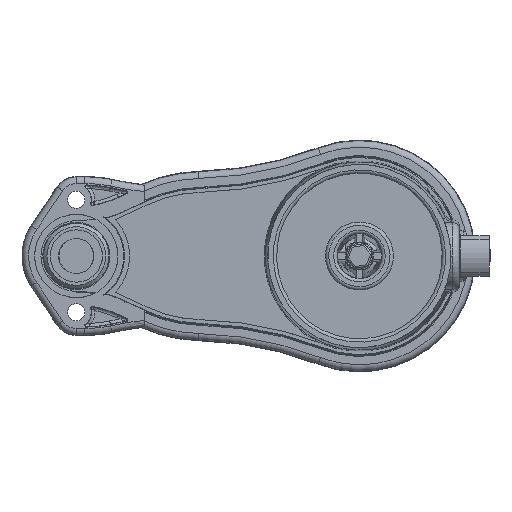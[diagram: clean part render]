
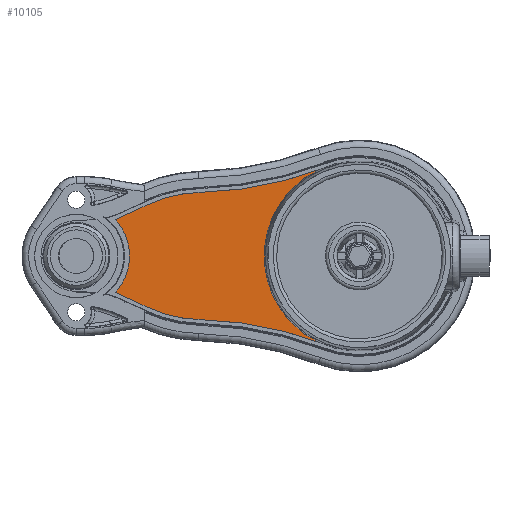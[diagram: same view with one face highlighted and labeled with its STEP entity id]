
A CAD part, front view. The second image highlights one B-rep face of the part: STEP entity #10105.
In plain terms, the highlighted planar face has unit normal (0, -1, 0).
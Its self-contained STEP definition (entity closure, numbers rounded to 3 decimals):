
#559=B_SPLINE_CURVE_WITH_KNOTS('',3,(#22620,#22621,#22622,#22623),
 .UNSPECIFIED.,.F.,.F.,(4,4),(0.,1.),.UNSPECIFIED.);
#562=B_SPLINE_CURVE_WITH_KNOTS('',3,(#22785,#22786,#22787,#22788,#22789,
#22790,#22791,#22792,#22793,#22794,#22795,#22796,#22797,#22798),
 .UNSPECIFIED.,.F.,.F.,(4,2,2,2,2,2,4),(0.,0.25,0.375,0.5,0.625,0.75,1.),
 .UNSPECIFIED.);
#1206=LINE('',#22601,#1736);
#1213=LINE('',#22655,#1743);
#1217=LINE('',#22663,#1747);
#1736=VECTOR('',#13829,1000.);
#1743=VECTOR('',#13860,1000.);
#1747=VECTOR('',#13866,1000.);
#4066=ORIENTED_EDGE('',*,*,#5757,.T.);
#4067=ORIENTED_EDGE('',*,*,#5807,.T.);
#4068=ORIENTED_EDGE('',*,*,#5760,.T.);
#4069=ORIENTED_EDGE('',*,*,#5762,.T.);
#4070=ORIENTED_EDGE('',*,*,#5747,.T.);
#4071=ORIENTED_EDGE('',*,*,#5742,.F.);
#4072=ORIENTED_EDGE('',*,*,#5751,.T.);
#4073=ORIENTED_EDGE('',*,*,#5752,.T.);
#4074=ORIENTED_EDGE('',*,*,#5737,.F.);
#4075=ORIENTED_EDGE('',*,*,#5808,.F.);
#4076=ORIENTED_EDGE('',*,*,#5741,.F.);
#4077=ORIENTED_EDGE('',*,*,#5732,.F.);
#4078=ORIENTED_EDGE('',*,*,#5729,.F.);
#4079=ORIENTED_EDGE('',*,*,#5809,.F.);
#5729=EDGE_CURVE('',#6868,#6866,#1206,.T.);
#5732=EDGE_CURVE('',#6866,#6870,#559,.F.);
#5737=EDGE_CURVE('',#6875,#6872,#7591,.T.);
#5741=EDGE_CURVE('',#6870,#6876,#7594,.T.);
#5742=EDGE_CURVE('',#6879,#6880,#7595,.T.);
#5747=EDGE_CURVE('',#6884,#6880,#1213,.T.);
#5751=EDGE_CURVE('',#6879,#6886,#1217,.T.);
#5752=EDGE_CURVE('',#6886,#6887,#7597,.T.);
#5757=EDGE_CURVE('',#6887,#6890,#7600,.T.);
#5760=EDGE_CURVE('',#6894,#6893,#7602,.T.);
#5762=EDGE_CURVE('',#6893,#6884,#7603,.T.);
#5807=EDGE_CURVE('',#6890,#6894,#7638,.T.);
#5808=EDGE_CURVE('',#6876,#6875,#7639,.T.);
#5809=EDGE_CURVE('',#6872,#6868,#562,.T.);
#6866=VERTEX_POINT('',#22596);
#6868=VERTEX_POINT('',#22600);
#6870=VERTEX_POINT('',#22615);
#6872=VERTEX_POINT('',#22627);
#6875=VERTEX_POINT('',#22633);
#6876=VERTEX_POINT('',#22637);
#6879=VERTEX_POINT('',#22645);
#6880=VERTEX_POINT('',#22646);
#6884=VERTEX_POINT('',#22656);
#6886=VERTEX_POINT('',#22662);
#6887=VERTEX_POINT('',#22666);
#6890=VERTEX_POINT('',#22674);
#6893=VERTEX_POINT('',#22681);
#6894=VERTEX_POINT('',#22683);
#7591=CIRCLE('',#11357,3.199);
#7594=CIRCLE('',#11361,3.199);
#7595=CIRCLE('',#11363,16.022);
#7597=CIRCLE('',#11368,38.452);
#7600=CIRCLE('',#11372,114.548);
#7602=CIRCLE('',#11375,114.548);
#7603=CIRCLE('',#11377,38.452);
#7638=CIRCLE('',#11427,28.452);
#7639=CIRCLE('',#11428,27.1);
#8391=EDGE_LOOP('',(#4066,#4067,#4068,#4069,#4070,#4071,#4072,#4073));
#8392=EDGE_LOOP('',(#4074,#4075,#4076,#4077,#4078,#4079));
#9200=FACE_BOUND('',#8391,.T.);
#9201=FACE_BOUND('',#8392,.T.);
#9566=PLANE('',#11426);
#10105=ADVANCED_FACE('',(#9200,#9201),#9566,.F.);
#11357=AXIS2_PLACEMENT_3D('',#22634,#13838,#13839);
#11361=AXIS2_PLACEMENT_3D('',#22642,#13847,#13848);
#11363=AXIS2_PLACEMENT_3D('',#22644,#13851,#13852);
#11368=AXIS2_PLACEMENT_3D('',#22665,#13869,#13870);
#11372=AXIS2_PLACEMENT_3D('',#22675,#13879,#13880);
#11375=AXIS2_PLACEMENT_3D('',#22682,#13886,#13887);
#11377=AXIS2_PLACEMENT_3D('',#22686,#13891,#13892);
#11426=AXIS2_PLACEMENT_3D('',#22782,#13997,#13998);
#11427=AXIS2_PLACEMENT_3D('',#22783,#13999,#14000);
#11428=AXIS2_PLACEMENT_3D('',#22784,#14001,#14002);
#13829=DIRECTION('',(0.,0.,1.));
#13838=DIRECTION('',(0.,1.,0.));
#13839=DIRECTION('',(0.,0.,-1.));
#13847=DIRECTION('',(0.,1.,0.));
#13848=DIRECTION('',(0.,0.,-1.));
#13851=DIRECTION('',(0.,-1.,0.));
#13852=DIRECTION('',(0.,0.,1.));
#13860=DIRECTION('',(-0.906,0.,-0.423));
#13866=DIRECTION('',(0.906,0.,-0.423));
#13869=DIRECTION('',(0.,-1.,0.));
#13870=DIRECTION('',(0.,0.,1.));
#13879=DIRECTION('',(0.,1.,0.));
#13880=DIRECTION('',(0.,0.,1.));
#13886=DIRECTION('',(0.,1.,0.));
#13887=DIRECTION('',(0.,0.,1.));
#13891=DIRECTION('',(0.,-1.,0.));
#13892=DIRECTION('',(0.,0.,1.));
#13997=DIRECTION('',(0.,1.,0.));
#13998=DIRECTION('',(0.,0.,1.));
#13999=DIRECTION('',(0.,-1.,0.));
#14000=DIRECTION('',(0.,0.,1.));
#14001=DIRECTION('',(0.,-1.,0.));
#14002=DIRECTION('',(0.,0.,1.));
#22596=CARTESIAN_POINT('',(112.3,0.,7.301));
#22600=CARTESIAN_POINT('',(112.3,0.,-7.301));
#22601=CARTESIAN_POINT('',(112.3,0.,7.301));
#22615=CARTESIAN_POINT('',(111.564,0.,8.098));
#22620=CARTESIAN_POINT('',(111.564,0.,8.098));
#22621=CARTESIAN_POINT('',(111.96,0.,8.067));
#22622=CARTESIAN_POINT('',(112.3,0.,7.704));
#22623=CARTESIAN_POINT('',(112.3,0.,7.301));
#22627=CARTESIAN_POINT('',(111.564,0.,-8.098));
#22633=CARTESIAN_POINT('',(110.813,0.,-8.251));
#22634=CARTESIAN_POINT('',(111.82,0.,-11.287));
#22637=CARTESIAN_POINT('',(110.813,0.,8.251));
#22642=CARTESIAN_POINT('',(111.82,0.,11.287));
#22644=CARTESIAN_POINT('',(0.,0.,0.));
#22645=CARTESIAN_POINT('',(11.741,0.,-10.902));
#22646=CARTESIAN_POINT('',(11.741,0.,10.902));
#22655=CARTESIAN_POINT('',(21.563,0.,15.482));
#22656=CARTESIAN_POINT('',(21.563,0.,15.482));
#22662=CARTESIAN_POINT('',(21.563,0.,-15.482));
#22663=CARTESIAN_POINT('',(15.023,0.,-12.433));
#22665=CARTESIAN_POINT('',(37.814,0.,19.367));
#22666=CARTESIAN_POINT('',(36.847,0.,-19.073));
#22674=CARTESIAN_POINT('',(74.847,0.,-26.579));
#22675=CARTESIAN_POINT('',(33.969,0.,-133.585));
#22681=CARTESIAN_POINT('',(36.847,0.,19.073));
#22682=CARTESIAN_POINT('',(33.969,0.,133.585));
#22683=CARTESIAN_POINT('',(74.847,0.,26.579));
#22686=CARTESIAN_POINT('',(37.814,0.,-19.367));
#22782=CARTESIAN_POINT('',(0.,0.,-16.9));
#22783=CARTESIAN_POINT('',(85.,0.,0.));
#22784=CARTESIAN_POINT('',(85.,0.,0.));
#22785=CARTESIAN_POINT('',(111.564,0.,-8.098));
#22786=CARTESIAN_POINT('',(111.664,0.,-8.09));
#22787=CARTESIAN_POINT('',(111.761,0.,-8.064));
#22788=CARTESIAN_POINT('',(111.895,0.,-7.999));
#22789=CARTESIAN_POINT('',(111.938,0.,-7.973));
#22790=CARTESIAN_POINT('',(112.017,0.,-7.913));
#22791=CARTESIAN_POINT('',(112.054,0.,-7.88));
#22792=CARTESIAN_POINT('',(112.121,0.,-7.807));
#22793=CARTESIAN_POINT('',(112.151,0.,-7.768));
#22794=CARTESIAN_POINT('',(112.204,0.,-7.684));
#22795=CARTESIAN_POINT('',(112.226,0.,-7.639));
#22796=CARTESIAN_POINT('',(112.28,0.,-7.5));
#22797=CARTESIAN_POINT('',(112.3,0.,-7.4));
#22798=CARTESIAN_POINT('',(112.3,0.,-7.301));
